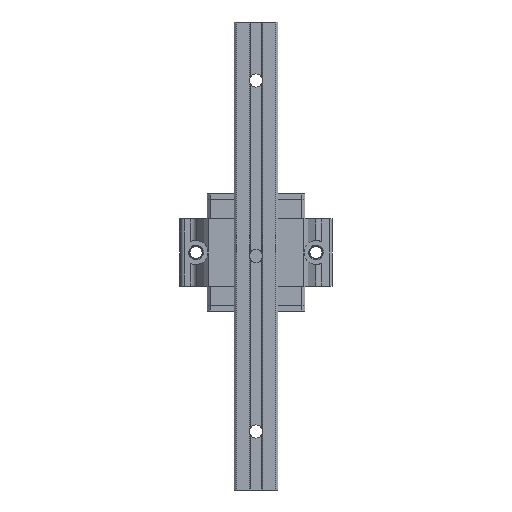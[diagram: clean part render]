
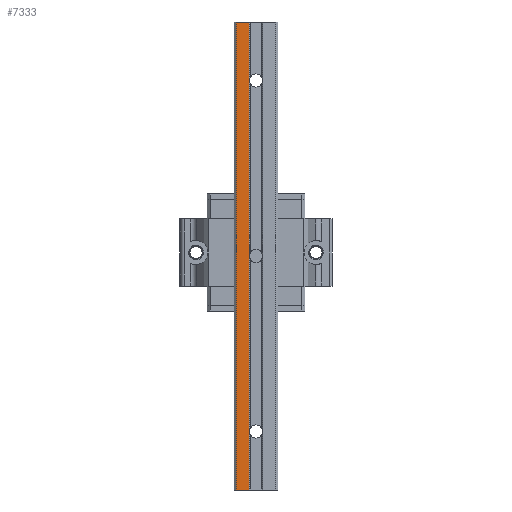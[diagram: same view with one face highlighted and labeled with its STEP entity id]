
A CAD part, front view. The second image highlights one B-rep face of the part: STEP entity #7333.
In plain terms, the highlighted planar face has unit normal (0, -1, 0).
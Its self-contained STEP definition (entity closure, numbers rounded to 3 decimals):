
#6805=PLANE('',#21624);
#7333=ADVANCED_FACE('',(#8334),#6805,.T.);
#8334=FACE_OUTER_BOUND('',#9113,.T.);
#9113=EDGE_LOOP('',(#10556,#10557,#10558,#10559));
#10556=ORIENTED_EDGE('',*,*,#16460,.T.);
#10557=ORIENTED_EDGE('',*,*,#16418,.F.);
#10558=ORIENTED_EDGE('',*,*,#16461,.F.);
#10559=ORIENTED_EDGE('',*,*,#16386,.T.);
#14901=VERTEX_POINT('',#26551);
#14902=VERTEX_POINT('',#26553);
#14929=VERTEX_POINT('',#26613);
#14930=VERTEX_POINT('',#26615);
#16386=EDGE_CURVE('',#14902,#14901,#18610,.T.);
#16418=EDGE_CURVE('',#14929,#14930,#18632,.T.);
#16460=EDGE_CURVE('',#14901,#14930,#18657,.T.);
#16461=EDGE_CURVE('',#14902,#14929,#18658,.T.);
#18610=LINE('',#26552,#20036);
#18632=LINE('',#26614,#20058);
#18657=LINE('',#26697,#20083);
#18658=LINE('',#26699,#20084);
#20036=VECTOR('',#22739,1.);
#20058=VECTOR('',#22785,1.);
#20083=VECTOR('',#22878,1.);
#20084=VECTOR('',#22881,1.);
#21624=AXIS2_PLACEMENT_3D('',#26700,#22882,#22883);
#22739=DIRECTION('',(-1.,0.,0.));
#22785=DIRECTION('',(-1.,0.,0.));
#22878=DIRECTION('',(0.,0.,-1.));
#22881=DIRECTION('',(0.,0.,-1.));
#22882=DIRECTION('',(0.,-1.,0.));
#22883=DIRECTION('',(-1.,0.,0.));
#26551=CARTESIAN_POINT('',(-6.8,-24.,100.));
#26552=CARTESIAN_POINT('',(-2.35,-24.,100.));
#26553=CARTESIAN_POINT('',(-2.35,-24.,100.));
#26613=CARTESIAN_POINT('',(-2.35,-24.,-60.));
#26614=CARTESIAN_POINT('',(-2.35,-24.,-60.));
#26615=CARTESIAN_POINT('',(-6.8,-24.,-60.));
#26697=CARTESIAN_POINT('',(-6.8,-24.,100.));
#26699=CARTESIAN_POINT('',(-2.35,-24.,100.));
#26700=CARTESIAN_POINT('',(-2.35,-24.,50.));
